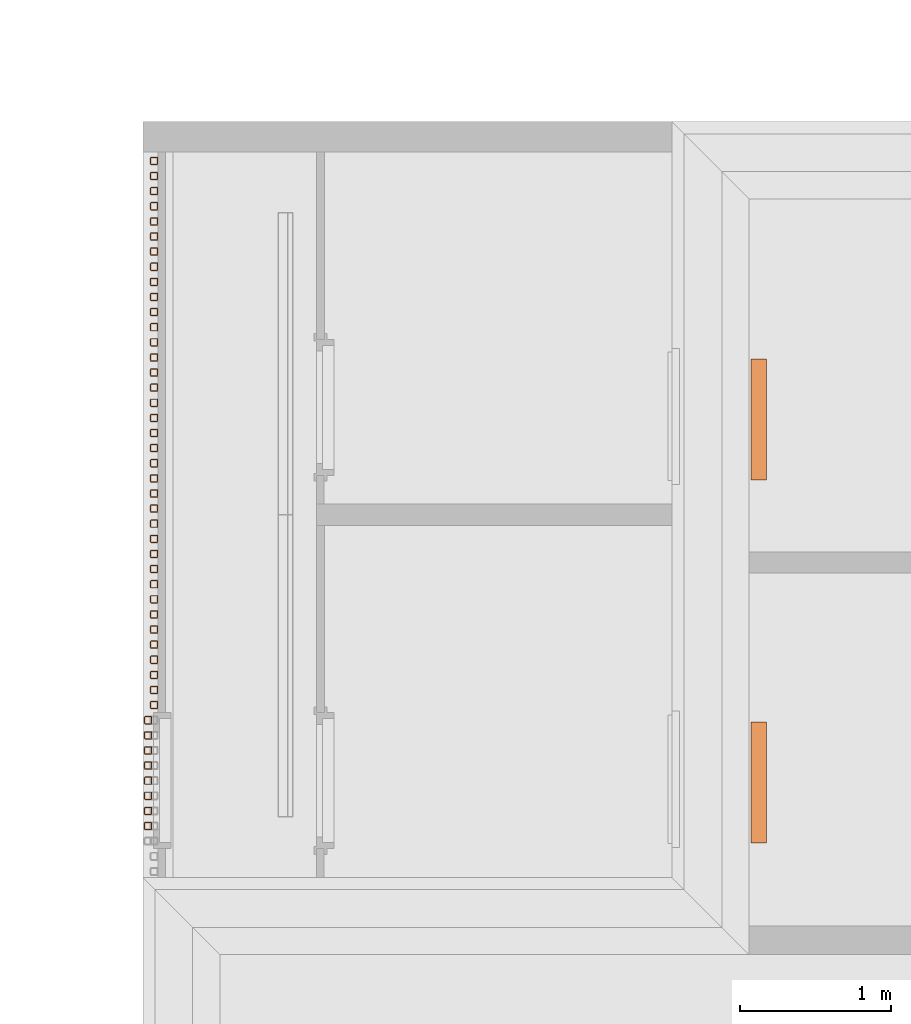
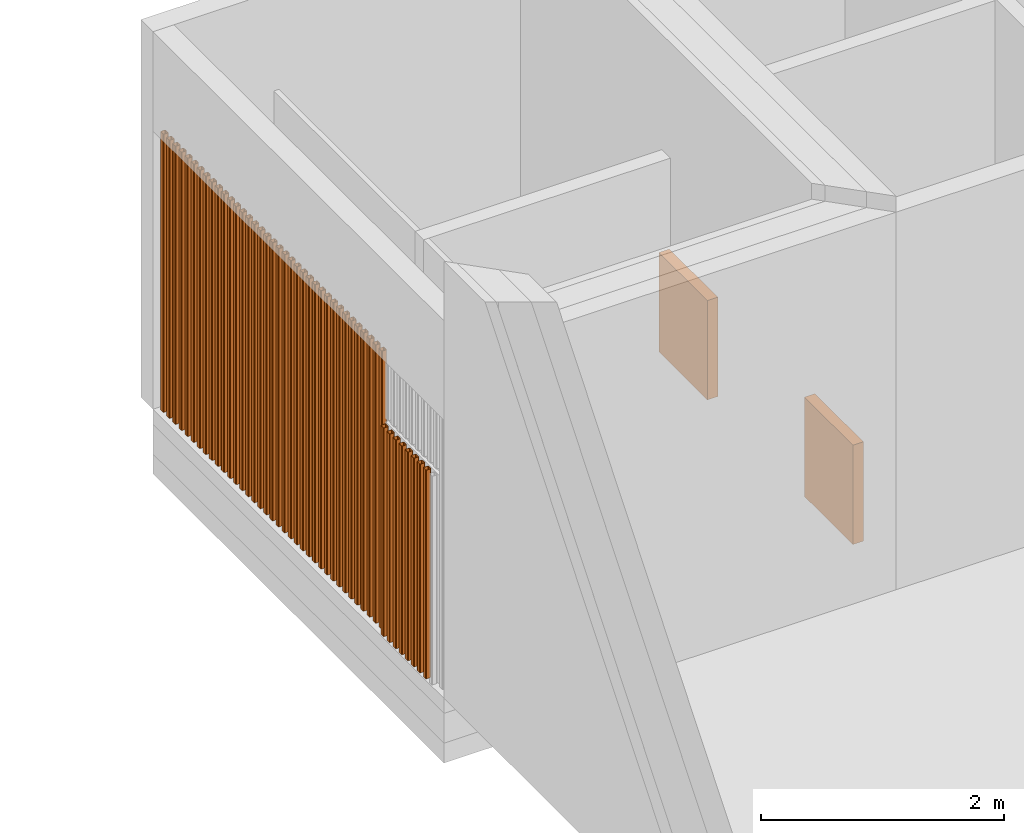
# One storey, part 70 of 112: 47 proxies.
"""IFC2X3 building model written with IfcOpenShell, lengths in millimetres."""

from ifc_helpers import new_model, entity, si_unit, converted_unit, derived_unit, money_unit, direction, frame, origin_with_axes, place, context, subcontext, project, spatial, faceted_brep, source, transform, mapped, material, type_object, element, save


model = new_model("IFC2X3")

# Units and contexts
model_context = context("Model", 3, precision=0.01, world=origin_with_axes(), true_north=direction((0.0, 1.0)))
body_context = subcontext(model_context, "Body", "Model", "MODEL_VIEW")
ifc_project = project(units=[si_unit("LENGTHUNIT", "METRE", prefix="MILLI"), si_unit("AREAUNIT", "SQUARE_METRE"), si_unit("VOLUMEUNIT", "CUBIC_METRE"), converted_unit("PLANEANGLEUNIT", "DEGREE", entity("IfcPlaneAngleMeasure", 0.0174532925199), si_unit("PLANEANGLEUNIT", "RADIAN"), dimensions=[0, 0, 0, 0, 0, 0, 0]), si_unit("SOLIDANGLEUNIT", "STERADIAN"), money_unit("EUR"), converted_unit("TIMEUNIT", "Year", entity("IfcTimeMeasure", 31556926.0), si_unit("TIMEUNIT", "SECOND"), dimensions=[0, 0, 1, 0, 0, 0, 0]), si_unit("MASSUNIT", "GRAM", prefix="KILO"), si_unit("THERMODYNAMICTEMPERATUREUNIT", "DEGREE_CELSIUS"), si_unit("LUMINOUSINTENSITYUNIT", "LUMEN"), si_unit("ENERGYUNIT", "JOULE", prefix="MEGA"), derived_unit("THERMALCONDUCTANCEUNIT", [(si_unit("POWERUNIT", "WATT"), 1), (si_unit("LENGTHUNIT", "METRE"), -1), (si_unit("THERMODYNAMICTEMPERATUREUNIT", "KELVIN"), -1)]), derived_unit("SPECIFICHEATCAPACITYUNIT", [(si_unit("ENERGYUNIT", "JOULE"), 1), (si_unit("MASSUNIT", "GRAM", prefix="KILO"), -1), (si_unit("THERMODYNAMICTEMPERATUREUNIT", "KELVIN"), -1)]), derived_unit("MASSDENSITYUNIT", [(si_unit("MASSUNIT", "GRAM", prefix="KILO"), 1), (si_unit("VOLUMEUNIT", "CUBIC_METRE"), -1)])], contexts=[model_context])

# Site, building, storey
site_placement = place(None, origin_with_axes())
site = spatial("IfcSite", under=ifc_project, at=site_placement, Name="Politse- ja Piirivalveameti ning Päästeameti ühishoone", CompositionType="ELEMENT")
building_placement = place(site_placement, origin_with_axes())
building = spatial("IfcBuilding", under=site, at=building_placement, Name="Politse- ja Piirivalveameti ning Päästeameti ühishoone", CompositionType="ELEMENT")
storey_placement = place(building_placement, origin_with_axes())
storey = spatial("IfcBuildingStorey", under=building, at=storey_placement, Name="Esimene korrus", CompositionType="ELEMENT", Elevation=0.0)

# Proxies
building_element_proxy_type_1 = type_object("IfcBuildingElementProxyType", Name="Cube 23", PredefinedType="NOTDEFINED")
shared_shape_1 = source(origin_with_axes(), body_context, "Body", "Brep", [
    faceted_brep([(800.0, 0.0, 0.0), (0.0, 0.0, 0.0), (0.0, 100.0, 0.0), (800.0, 100.0, 0.0), (800.0, 0.0, 1000.0), (0.0, 0.0, 1000.0), (0.0, 100.0, 1000.0), (800.0, 100.0, 1000.0)], [[[0, 1, 2, 3]], [[1, 0, 4, 5]], [[2, 1, 5, 6]], [[3, 2, 6, 7]], [[0, 3, 7, 4]], [[5, 4, 7, 6]]]),
])
for number, where, z_axis, x_axis, name in (
    (1, (3514.82938761, 19939.5867189, 0.0), (0.0, 0.0, 1.0), (0.0, -1.0, 0.0), "L-03"),
    (2, (3514.82938761, 17539.3312378, 0.0), (0.0, 0.0, 1.0), (0.0, -1.0, 0.0), "L-03"),
):
    element("IfcBuildingElementProxy", number, at=place(storey_placement, frame(where, z_axis=z_axis, x_axis=x_axis)), inside=storey, type_object=building_element_proxy_type_1, Name=name, context=body_context, shape_type="MappedRepresentation", body=[
        mapped(shared_shape_1, transform((0.0, 0.0, 0.0))),
    ])
ifc_material = material(Name="ET-05_Teras")
building_element_proxy_type_2 = type_object("IfcBuildingElementProxyType", Name="SHS Cold-Formed Column 23", PredefinedType="NOTDEFINED")
shared_shape_2 = source(origin_with_axes(), body_context, "Body", "Brep", [
    faceted_brep([(19.0, -25.0, 0.0), (19.0, -25.0, 2800.0), (-19.0, -25.0, 2800.0), (-19.0, -25.0, 0.0), (23.2426406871, -23.2426406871, 0.0), (23.2426406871, -23.2426406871, 2800.0), (25.0, -19.0, 2800.0), (25.0, 19.0, 2800.0), (23.2426406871, 23.2426406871, 2800.0), (19.0, 25.0, 2800.0), (-19.0, 25.0, 2800.0), (-23.2426406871, 23.2426406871, 2800.0), (-25.0, 19.0, 2800.0), (-25.0, -19.0, 2800.0), (-23.2426406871, -23.2426406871, 2800.0), (19.0, -22.0, 2800.0), (-19.0, -22.0, 2800.0), (-21.1213203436, -21.1213203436, 2800.0), (-22.0, -19.0, 2800.0), (-22.0, 19.0, 2800.0), (-21.1213203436, 21.1213203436, 2800.0), (-19.0, 22.0, 2800.0), (19.0, 22.0, 2800.0), (21.1213203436, 21.1213203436, 2800.0), (22.0, 19.0, 2800.0), (22.0, -19.0, 2800.0), (21.1213203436, -21.1213203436, 2800.0), (-23.2426406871, -23.2426406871, 0.0), (-25.0, -19.0, 0.0), (-25.0, 19.0, 0.0), (-23.2426406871, 23.2426406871, 0.0), (-19.0, 25.0, 0.0), (19.0, 25.0, 0.0), (23.2426406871, 23.2426406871, 0.0), (25.0, 19.0, 0.0), (25.0, -19.0, 0.0), (19.0, -22.0, 0.0), (21.1213203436, -21.1213203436, 0.0), (22.0, -19.0, 0.0), (22.0, 19.0, 0.0), (21.1213203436, 21.1213203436, 0.0), (19.0, 22.0, 0.0), (-19.0, 22.0, 0.0), (-21.1213203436, 21.1213203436, 0.0), (-22.0, 19.0, 0.0), (-22.0, -19.0, 0.0), (-21.1213203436, -21.1213203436, 0.0), (-19.0, -22.0, 0.0)], [[[0, 1, 2, 3]], [[4, 5, 1, 0]], [[1, 5, 6, 7, 8, 9, 10, 11, 12, 13, 14, 2], [15, 16, 17, 18, 19, 20, 21, 22, 23, 24, 25, 26]], [[3, 2, 14, 27]], [[0, 3, 27, 28, 29, 30, 31, 32, 33, 34, 35, 4], [36, 37, 38, 39, 40, 41, 42, 43, 44, 45, 46, 47]], [[35, 6, 5, 4]], [[34, 7, 6, 35]], [[33, 8, 7, 34]], [[32, 9, 8, 33]], [[31, 10, 9, 32]], [[30, 11, 10, 31]], [[29, 12, 11, 30]], [[28, 13, 12, 29]], [[27, 14, 13, 28]], [[47, 16, 15, 36]], [[46, 17, 16, 47]], [[45, 18, 17, 46]], [[44, 19, 18, 45]], [[43, 20, 19, 44]], [[42, 21, 20, 43]], [[41, 22, 21, 42]], [[40, 23, 22, 41]], [[39, 24, 23, 40]], [[38, 25, 24, 39]], [[37, 26, 25, 38]], [[36, 15, 26, 37]]]),
])
for number, where, z_axis, x_axis in (
    (3, (-434.917284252, 18550.499859, 0.0), (0.0, 0.0, 1.0), (-1.0, -1.30049817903e-07, 0.0)),
    (4, (-434.917271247, 18450.499859, 0.0), (0.0, 0.0, 1.0), (-1.0, -1.30049817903e-07, 0.0)),
    (5, (-434.917258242, 18350.499859, 0.0), (0.0, 0.0, 1.0), (-1.0, -1.30049817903e-07, 0.0)),
    (6, (-434.917245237, 18250.499859, 0.0), (0.0, 0.0, 1.0), (-1.0, -1.30049817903e-07, 0.0)),
    (7, (-434.917349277, 19050.499859, 0.0), (0.0, 0.0, 1.0), (-1.0, -1.30049817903e-07, 0.0)),
    (8, (-434.917336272, 18950.499859, 0.0), (0.0, 0.0, 1.0), (-1.0, -1.30049817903e-07, 0.0)),
    (9, (-434.917323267, 18850.499859, 0.0), (0.0, 0.0, 1.0), (-1.0, -1.30049817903e-07, 0.0)),
    (10, (-434.917310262, 18750.499859, 0.0), (0.0, 0.0, 1.0), (-1.0, -1.30049817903e-07, 0.0)),
    (11, (-434.917297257, 18650.499859, 0.0), (0.0, 0.0, 1.0), (-1.0, -1.30049817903e-07, 0.0)),
    (12, (-434.917414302, 19550.499859, 0.0), (0.0, 0.0, 1.0), (-1.0, -1.30049817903e-07, 0.0)),
    (13, (-434.917401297, 19450.499859, 0.0), (0.0, 0.0, 1.0), (-1.0, -1.30049817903e-07, 0.0)),
    (14, (-434.917388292, 19350.499859, 0.0), (0.0, 0.0, 1.0), (-1.0, -1.30049817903e-07, 0.0)),
    (15, (-434.917375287, 19250.499859, 0.0), (0.0, 0.0, 1.0), (-1.0, -1.30049817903e-07, 0.0)),
    (16, (-434.917362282, 19150.499859, 0.0), (0.0, 0.0, 1.0), (-1.0, -1.30049817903e-07, 0.0)),
    (17, (-434.917466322, 19950.499859, 0.0), (0.0, 0.0, 1.0), (-1.0, -1.30049817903e-07, 0.0)),
    (18, (-434.917453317, 19850.499859, 0.0), (0.0, 0.0, 1.0), (-1.0, -1.30049817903e-07, 0.0)),
    (19, (-434.917440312, 19750.499859, 0.0), (0.0, 0.0, 1.0), (-1.0, -1.30049817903e-07, 0.0)),
    (20, (-434.917427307, 19650.499859, 0.0), (0.0, 0.0, 1.0), (-1.0, -1.30049817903e-07, 0.0)),
    (21, (-434.917531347, 20450.499859, 0.0), (0.0, 0.0, 1.0), (-1.0, -1.30049817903e-07, 0.0)),
    (22, (-434.917518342, 20350.499859, 0.0), (0.0, 0.0, 1.0), (-1.0, -1.30049817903e-07, 0.0)),
    (23, (-434.917505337, 20250.499859, 0.0), (0.0, 0.0, 1.0), (-1.0, -1.30049817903e-07, 0.0)),
    (24, (-434.917492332, 20150.499859, 0.0), (0.0, 0.0, 1.0), (-1.0, -1.30049817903e-07, 0.0)),
    (25, (-434.917479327, 20050.499859, 0.0), (0.0, 0.0, 1.0), (-1.0, -1.30049817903e-07, 0.0)),
    (26, (-434.917596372, 20950.499859, 0.0), (0.0, 0.0, 1.0), (-1.0, -1.30049817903e-07, 0.0)),
    (27, (-434.917583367, 20850.499859, 0.0), (0.0, 0.0, 1.0), (-1.0, -1.30049817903e-07, 0.0)),
    (28, (-434.917570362, 20750.499859, 0.0), (0.0, 0.0, 1.0), (-1.0, -1.30049817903e-07, 0.0)),
    (29, (-434.917557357, 20650.499859, 0.0), (0.0, 0.0, 1.0), (-1.0, -1.30049817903e-07, 0.0)),
    (30, (-434.917544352, 20550.499859, 0.0), (0.0, 0.0, 1.0), (-1.0, -1.30049817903e-07, 0.0)),
    (31, (-434.917635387, 21250.499859, 0.0), (0.0, 0.0, 1.0), (-1.0, -1.30049817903e-07, 0.0)),
    (32, (-434.917622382, 21150.499859, 0.0), (0.0, 0.0, 1.0), (-1.0, -1.30049817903e-07, 0.0)),
    (33, (-434.917609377, 21050.499859, 0.0), (0.0, 0.0, 1.0), (-1.0, -1.30049817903e-07, 0.0)),
    (34, (-434.917232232, 18150.499859, 0.0), (0.0, 0.0, 1.0), (-1.0, -1.30049817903e-07, 0.0)),
    (35, (-434.917219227, 18050.499859, 0.0), (0.0, 0.0, 1.0), (-1.0, -1.30049817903e-07, 0.0)),
    (36, (-434.917206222, 17950.499859, 0.0), (0.0, 0.0, 1.0), (-1.0, -1.30049817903e-07, 0.0)),
    (37, (-434.917193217, 17850.499859, 0.0), (0.0, 0.0, 1.0), (-1.0, -1.30049817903e-07, 0.0)),
    (38, (-434.917180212, 17750.499859, 0.0), (0.0, 0.0, 1.0), (-1.0, -1.30049817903e-07, 0.0)),
    (39, (-434.917167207, 17650.499859, 0.0), (0.0, 0.0, 1.0), (-1.0, -1.30049817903e-07, 0.0)),
):
    element("IfcBuildingElementProxy", number, at=place(storey_placement, frame(where, z_axis=z_axis, x_axis=x_axis)), inside=storey, type_object=building_element_proxy_type_2, material=ifc_material, Name="Fassaadiribid", context=body_context, shape_type="MappedRepresentation", body=[
        mapped(shared_shape_2, transform((0.0, 0.0, 0.0))),
    ])
shared_shape_3 = source(origin_with_axes(), body_context, "Body", "Brep", [
    faceted_brep([(19.0, -25.0, 0.0), (19.0, -25.0, 2100.0), (-19.0, -25.0, 2100.0), (-19.0, -25.0, 0.0), (23.2426406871, -23.2426406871, 0.0), (23.2426406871, -23.2426406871, 2100.0), (25.0, -19.0, 2100.0), (25.0, 19.0, 2100.0), (23.2426406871, 23.2426406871, 2100.0), (19.0, 25.0, 2100.0), (-19.0, 25.0, 2100.0), (-23.2426406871, 23.2426406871, 2100.0), (-25.0, 19.0, 2100.0), (-25.0, -19.0, 2100.0), (-23.2426406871, -23.2426406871, 2100.0), (19.0, -22.0, 2100.0), (-19.0, -22.0, 2100.0), (-21.1213203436, -21.1213203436, 2100.0), (-22.0, -19.0, 2100.0), (-22.0, 19.0, 2100.0), (-21.1213203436, 21.1213203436, 2100.0), (-19.0, 22.0, 2100.0), (19.0, 22.0, 2100.0), (21.1213203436, 21.1213203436, 2100.0), (22.0, 19.0, 2100.0), (22.0, -19.0, 2100.0), (21.1213203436, -21.1213203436, 2100.0), (-23.2426406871, -23.2426406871, 0.0), (-25.0, -19.0, 0.0), (-25.0, 19.0, 0.0), (-23.2426406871, 23.2426406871, 0.0), (-19.0, 25.0, 0.0), (19.0, 25.0, 0.0), (23.2426406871, 23.2426406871, 0.0), (25.0, 19.0, 0.0), (25.0, -19.0, 0.0), (19.0, -22.0, 0.0), (21.1213203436, -21.1213203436, 0.0), (22.0, -19.0, 0.0), (22.0, 19.0, 0.0), (21.1213203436, 21.1213203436, 0.0), (19.0, 22.0, 0.0), (-19.0, 22.0, 0.0), (-21.1213203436, 21.1213203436, 0.0), (-22.0, 19.0, 0.0), (-22.0, -19.0, 0.0), (-21.1213203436, -21.1213203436, 0.0), (-19.0, -22.0, 0.0)], [[[0, 1, 2, 3]], [[4, 5, 1, 0]], [[1, 5, 6, 7, 8, 9, 10, 11, 12, 13, 14, 2], [15, 16, 17, 18, 19, 20, 21, 22, 23, 24, 25, 26]], [[3, 2, 14, 27]], [[0, 3, 27, 28, 29, 30, 31, 32, 33, 34, 35, 4], [36, 37, 38, 39, 40, 41, 42, 43, 44, 45, 46, 47]], [[35, 6, 5, 4]], [[34, 7, 6, 35]], [[33, 8, 7, 34]], [[32, 9, 8, 33]], [[31, 10, 9, 32]], [[30, 11, 10, 31]], [[29, 12, 11, 30]], [[28, 13, 12, 29]], [[27, 14, 13, 28]], [[47, 16, 15, 36]], [[46, 17, 16, 47]], [[45, 18, 17, 46]], [[44, 19, 18, 45]], [[43, 20, 19, 44]], [[42, 21, 20, 43]], [[41, 22, 21, 42]], [[40, 23, 22, 41]], [[39, 24, 23, 40]], [[38, 25, 24, 39]], [[37, 26, 25, 38]], [[36, 15, 26, 37]]]),
])
for number, where, z_axis, x_axis in (
    (40, (-474.500733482, 16850.500339, 0.0), (0.0, 0.0, 1.0), (-1.0, -1.30049817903e-07, 0.0)),
    (41, (-474.500746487, 16950.500339, 0.0), (0.0, 0.0, 1.0), (-1.0, -1.30049817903e-07, 0.0)),
    (42, (-474.500759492, 17050.500339, 0.0), (0.0, 0.0, 1.0), (-1.0, -1.30049817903e-07, 0.0)),
    (43, (-474.500772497, 17150.500339, 0.0), (0.0, 0.0, 1.0), (-1.0, -1.30049817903e-07, 0.0)),
    (44, (-474.500785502, 17250.500339, 0.0), (0.0, 0.0, 1.0), (-1.0, -1.30049817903e-07, 0.0)),
    (45, (-474.500798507, 17350.500339, 0.0), (0.0, 0.0, 1.0), (-1.0, -1.30049817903e-07, 0.0)),
    (46, (-474.500811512, 17450.500339, 0.0), (0.0, 0.0, 1.0), (-1.0, -1.30049817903e-07, 0.0)),
    (47, (-474.500824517, 17550.500339, 0.0), (0.0, 0.0, 1.0), (-1.0, -1.30049817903e-07, 0.0)),
):
    element("IfcBuildingElementProxy", number, at=place(storey_placement, frame(where, z_axis=z_axis, x_axis=x_axis)), inside=storey, type_object=building_element_proxy_type_2, material=ifc_material, Name="Fassaadiribid", context=body_context, shape_type="MappedRepresentation", body=[
        mapped(shared_shape_3, transform((0.0, 0.0, 0.0))),
    ])

save(model, "model.ifc")
